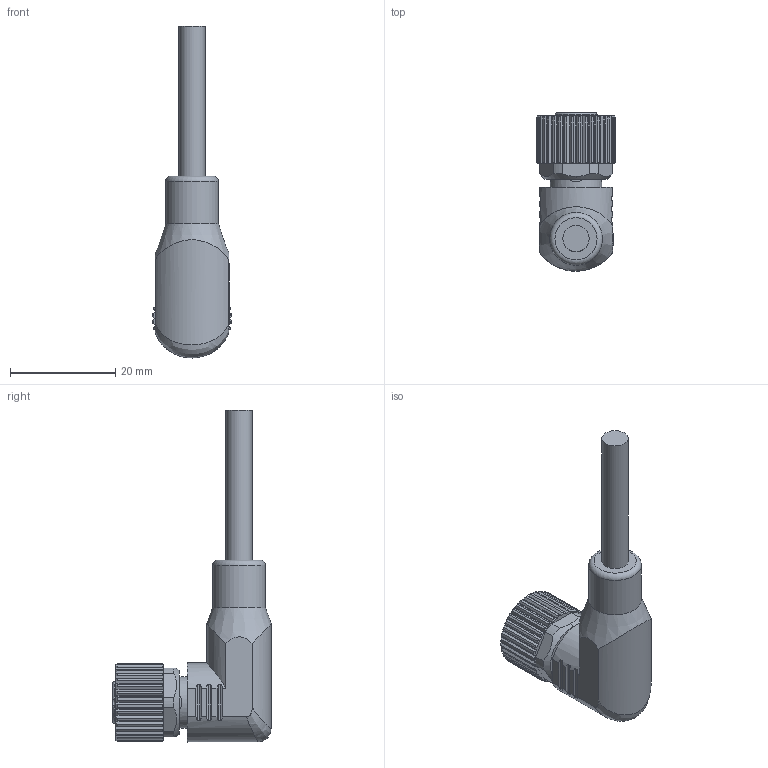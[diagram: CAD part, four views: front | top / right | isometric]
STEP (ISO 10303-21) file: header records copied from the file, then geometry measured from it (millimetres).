
FILE_DESCRIPTION(/* description */ (''),/* implementation_level */ '2;1');
FILE_NAME(/* name */ 'M12-8FR.P-L.FR.stp',/* time_stamp */ '2024-11-13T17:03:39+08:00',/* author */ (''),/* organization */ (''),/* preprocessor_version */ 'ST-DEVELOPER v16.7',/* originating_system */ 'SIEMENS PLM Software NX 12.0',/* authorisation */ '');
FILE_SCHEMA (('AP203_CONFIGURATION_CONTROLLED_3D_DESIGN_OF_MECHANICAL_PARTS_AND_ASSEMBLIES_MIM_LF { 1 0 10303 403 2 1 2}'));
Length unit declared in the file: millimetre
Products named in the file (1): Admi3D0C7E91vqvo
Bounding box: 14.98 x 30.05 x 63 mm (x, y, z)
Volume: 6875.2 mm3; surface area: 5342.1 mm2
Topology: 2 solids, 2 shells, 605 faces, 1690 edges, 1128 vertices
Faces by surface type: plane 271, cylinder 213, cone 86, extrusion 16, bspline 11, torus 8
Full cylindrical faces by diameter (mm): 1 x16, 1.4 x8, 1.5 x8, 5 x1, 9.8 x1, 10 x1, 12 x9
Entity records: 21653 total; most frequent: CARTESIAN_POINT 6766, ORIENTED_EDGE 3166, DIRECTION 2931, EDGE_CURVE 1583, VERTEX_POINT 1078, AXIS2_PLACEMENT_3D 1065, VECTOR 801, LINE 785
